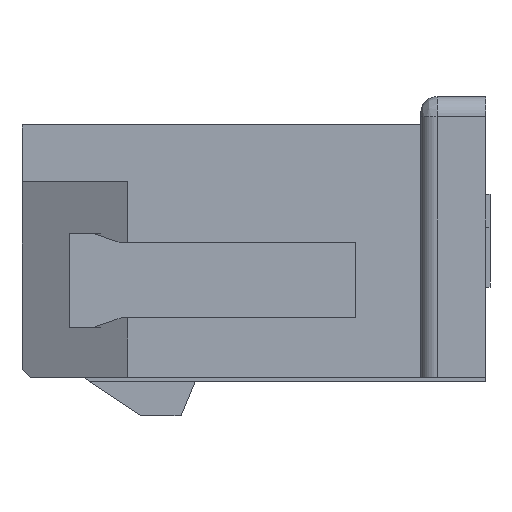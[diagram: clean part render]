
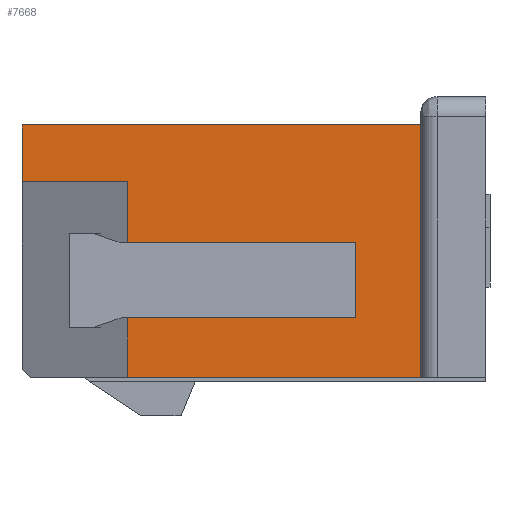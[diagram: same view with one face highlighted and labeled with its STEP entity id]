
A CAD part, front view. The second image highlights one B-rep face of the part: STEP entity #7668.
In plain terms, the highlighted planar face has unit normal (0, -1, 0).
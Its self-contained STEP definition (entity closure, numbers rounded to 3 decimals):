
#45=DIRECTION('',(-1.,0.,0.));
#46=VECTOR('',#45,3.6);
#47=CARTESIAN_POINT('',(10.1,-8.5,-2.6));
#48=LINE('',#47,#46);
#1448=DIRECTION('',(0.,0.,-1.));
#1449=VECTOR('',#1448,3.1);
#1450=CARTESIAN_POINT('',(10.1,-8.5,0.5));
#1451=LINE('',#1450,#1449);
#2601=DIRECTION('',(0.,0.,-1.));
#2602=VECTOR('',#2601,0.7);
#2603=CARTESIAN_POINT('',(5.2,-8.5,0.5));
#2604=LINE('',#2603,#2602);
#2605=DIRECTION('',(-1.,0.,0.));
#2606=VECTOR('',#2605,4.9);
#2607=CARTESIAN_POINT('',(10.1,-8.5,0.5));
#2608=LINE('',#2607,#2606);
#2609=DIRECTION('',(-1.,0.,0.));
#2610=VECTOR('',#2609,2.8);
#2611=CARTESIAN_POINT('',(9.3,-8.5,-1.87));
#2612=LINE('',#2611,#2610);
#2613=DIRECTION('',(0.,0.,-1.));
#2614=VECTOR('',#2613,0.92);
#2615=CARTESIAN_POINT('',(9.3,-8.5,-0.95));
#2616=LINE('',#2615,#2614);
#2617=DIRECTION('',(1.,0.,0.));
#2618=VECTOR('',#2617,2.8);
#2619=CARTESIAN_POINT('',(6.5,-8.5,-0.95));
#2620=LINE('',#2619,#2618);
#2629=DIRECTION('',(-1.,0.,0.));
#2630=VECTOR('',#2629,1.3);
#2631=CARTESIAN_POINT('',(6.5,-8.5,-0.2));
#2632=LINE('',#2631,#2630);
#2633=DIRECTION('',(0.,0.,1.));
#2634=VECTOR('',#2633,0.75);
#2635=CARTESIAN_POINT('',(6.5,-8.5,-0.95));
#2636=LINE('',#2635,#2634);
#2645=DIRECTION('',(0.,0.,1.));
#2646=VECTOR('',#2645,0.73);
#2647=CARTESIAN_POINT('',(6.5,-8.5,-2.6));
#2648=LINE('',#2647,#2646);
#3201=CARTESIAN_POINT('',(10.1,-8.5,-2.6));
#3202=VERTEX_POINT('',#3201);
#3203=CARTESIAN_POINT('',(6.5,-8.5,-2.6));
#3204=VERTEX_POINT('',#3203);
#3293=CARTESIAN_POINT('',(10.1,-8.5,0.5));
#3294=VERTEX_POINT('',#3293);
#3325=CARTESIAN_POINT('',(5.2,-8.5,0.5));
#3326=VERTEX_POINT('',#3325);
#3347=CARTESIAN_POINT('',(5.2,-8.5,-0.2));
#3348=VERTEX_POINT('',#3347);
#3385=CARTESIAN_POINT('',(6.5,-8.5,-0.2));
#3386=VERTEX_POINT('',#3385);
#3387=CARTESIAN_POINT('',(6.5,-8.5,-1.87));
#3388=VERTEX_POINT('',#3387);
#3401=CARTESIAN_POINT('',(6.5,-8.5,-0.95));
#3402=VERTEX_POINT('',#3401);
#3403=CARTESIAN_POINT('',(9.3,-8.5,-0.95));
#3404=VERTEX_POINT('',#3403);
#3405=CARTESIAN_POINT('',(9.3,-8.5,-1.87));
#3406=VERTEX_POINT('',#3405);
#7645=CARTESIAN_POINT('',(5.124,-8.5,-12.2));
#7646=DIRECTION('',(0.,-1.,0.));
#7647=DIRECTION('',(1.,0.,0.));
#7648=AXIS2_PLACEMENT_3D('',#7645,#7646,#7647);
#7649=PLANE('',#7648);
#7651=ORIENTED_EDGE('',*,*,#7650,.T.);
#7652=ORIENTED_EDGE('',*,*,#3837,.F.);
#7653=ORIENTED_EDGE('',*,*,#4738,.F.);
#7654=ORIENTED_EDGE('',*,*,#5902,.T.);
#7655=ORIENTED_EDGE('',*,*,#3785,.T.);
#7657=ORIENTED_EDGE('',*,*,#7656,.T.);
#7659=ORIENTED_EDGE('',*,*,#7658,.F.);
#7661=ORIENTED_EDGE('',*,*,#7660,.F.);
#7663=ORIENTED_EDGE('',*,*,#7662,.F.);
#7665=ORIENTED_EDGE('',*,*,#7664,.T.);
#7666=EDGE_LOOP('',(#7651,#7652,#7653,#7654,#7655,#7657,#7659,#7661,#7663,
#7665));
#7667=FACE_OUTER_BOUND('',#7666,.F.);
#7668=ADVANCED_FACE('',(#7667),#7649,.T.);
#3785=EDGE_CURVE('',#3202,#3204,#48,.T.);
#3837=EDGE_CURVE('',#3326,#3348,#2604,.T.);
#4738=EDGE_CURVE('',#3294,#3326,#2608,.T.);
#5902=EDGE_CURVE('',#3294,#3202,#1451,.T.);
#7650=EDGE_CURVE('',#3386,#3348,#2632,.T.);
#7656=EDGE_CURVE('',#3204,#3388,#2648,.T.);
#7658=EDGE_CURVE('',#3406,#3388,#2612,.T.);
#7660=EDGE_CURVE('',#3404,#3406,#2616,.T.);
#7662=EDGE_CURVE('',#3402,#3404,#2620,.T.);
#7664=EDGE_CURVE('',#3402,#3386,#2636,.T.);
